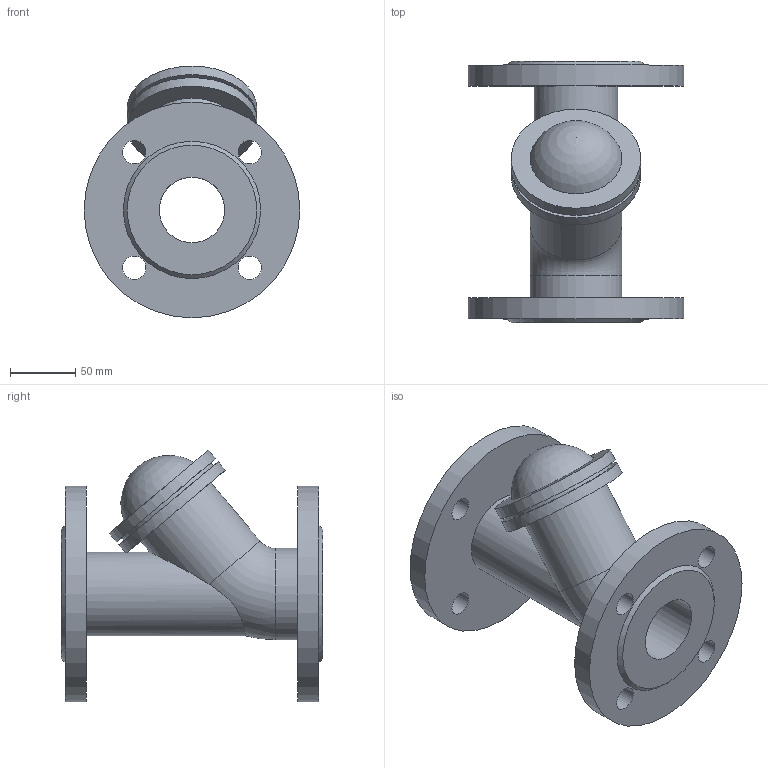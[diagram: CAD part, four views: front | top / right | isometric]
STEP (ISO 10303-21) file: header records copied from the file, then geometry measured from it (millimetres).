
FILE_DESCRIPTION(('STEP AP203'), '1');
FILE_NAME('Êëàïàí îáðàòíûé øàðîâîé ôëàíöåâûé 012F DN50', '', ('UNSPECIFIED'), ('UNSPECIFIED'), 'ASCON STEP Converter 1.6', 'ASCON Math Kernel', '');
FILE_SCHEMA(('CONFIG_CONTROL_DESIGN'));
Length unit declared in the file: millimetre
Bounding box: 165 x 200 x 192.5 mm (x, y, z)
Volume: 1137253.6 mm3; surface area: 197561.2 mm2
Topology: 1 solids, 1 shells, 36 faces, 86 edges, 57 vertices
Faces by surface type: cylinder 19, plane 12, torus 2, cone 2, sphere 1
Full cylindrical faces by diameter (mm): 18 x8, 50 x2, 64 x1, 70 x2, 89 x1, 99 x2, 165 x2
Entity records: 1693 total; most frequent: CARTESIAN_POINT 578, DIRECTION 168, ORIENTED_EDGE 122, EDGE_LOOP 85, AXIS2_PLACEMENT_3D 84, EDGE_CURVE 61, VERTEX_POINT 56, FACE_BOUND 47
